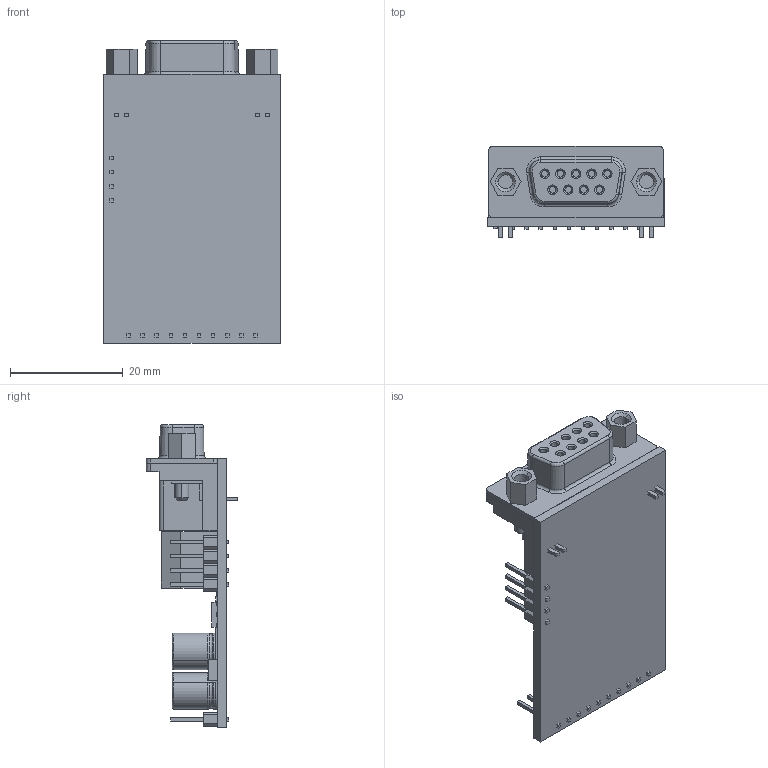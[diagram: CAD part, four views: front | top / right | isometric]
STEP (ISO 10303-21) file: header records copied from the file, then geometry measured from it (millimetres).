
FILE_DESCRIPTION(('CATIA V5 STEP Exchange'),'2;1');
FILE_NAME('X:\XDrive\Homepage\homes\techecke\elektronik\download\R217A08.stp','2025-12-07T14:10:44+00:00',('none'),('none'),'CATIA Version 5 Release 19 SP 2 (IN-10)','CATIA V5 STEP AP203','none');
FILE_SCHEMA(('CONFIG_CONTROL_DESIGN'));
Length unit declared in the file: millimetre
Products named in the file (1): R217A08
Bounding box: 31.4 x 16.2 x 53.75 mm (x, y, z)
Volume: 8266.4 mm3; surface area: 9306.1 mm2
Topology: 56 solids, 56 shells, 849 faces, 2051 edges, 1343 vertices
Faces by surface type: plane 691, cylinder 100, cone 30, torus 28
Entity records: 22273 total; most frequent: ORIENTED_EDGE 4102, CARTESIAN_POINT 4004, DIRECTION 2963, EDGE_CURVE 2051, VECTOR 1777, LINE 1777, VERTEX_POINT 1343, EDGE_LOOP 894
